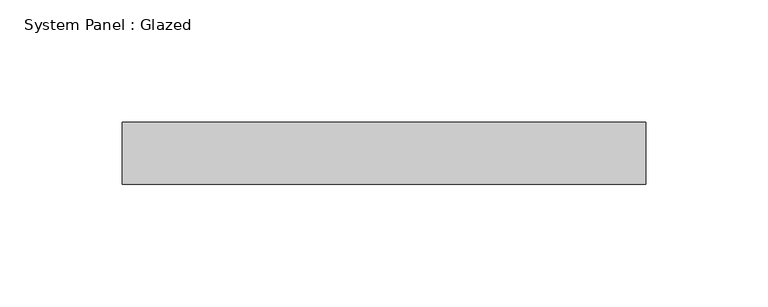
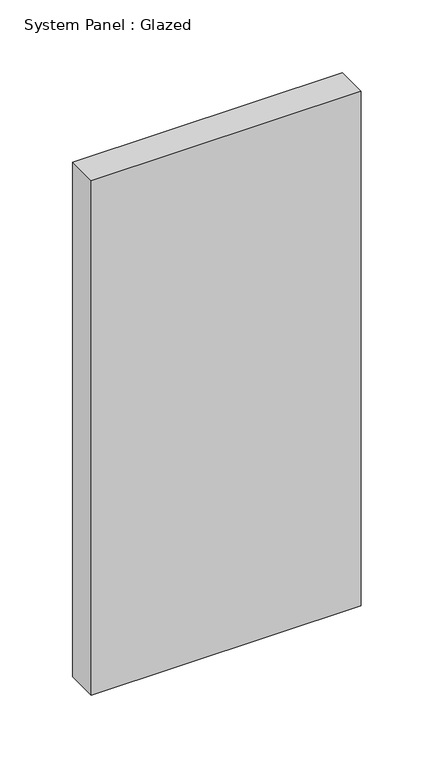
"""IFC4 building model written with IfcOpenShell, lengths in millimetres: plate geometry, System Panel : Glazed."""

from ifc_helpers import new_model, si_unit, origin, origin_with_axes, place, context, project, spatial, polyline, outline, extrude, source, transform, mapped, element, save


def system_panel_glazed_24dc3dec(model_context):
    return source(origin(), model_context, "Body", "SweptSolid", [
        extrude(outline(polyline([(107.2013686, -44.45), (-107.2013686, -44.45), (-107.2013686, -19.05), (107.2013686, -19.05), (107.2013686, -44.45)])), origin_with_axes(), (0.0, 0.0, 1.0), 431.8),
    ])


if __name__ == "__main__":
    model = new_model("IFC4")
    model_context = context("Model", 3, world=origin())
    ifc_project = project(units=[si_unit("LENGTHUNIT", "METRE", prefix="MILLI")], contexts=[model_context])
    site = spatial("IfcSite", under=ifc_project)
    building = spatial("IfcBuilding", under=site)
    placement = place(None, origin())
    system_panel_glazed_shape = system_panel_glazed_24dc3dec(model_context)
    element("IfcPlate", 1, ObjectType="System Panel : Glazed", at=placement, inside=building, context=model_context, shape_type="MappedRepresentation", body=[
        mapped(system_panel_glazed_shape, transform((0.0, 0.0, 0.0), x_axis=(1.0, 0.0, 0.0), y_axis=(0.0, 1.0, 0.0), z_axis=(0.0, 0.0, 1.0))),
    ])
    save(model, "model.ifc")
